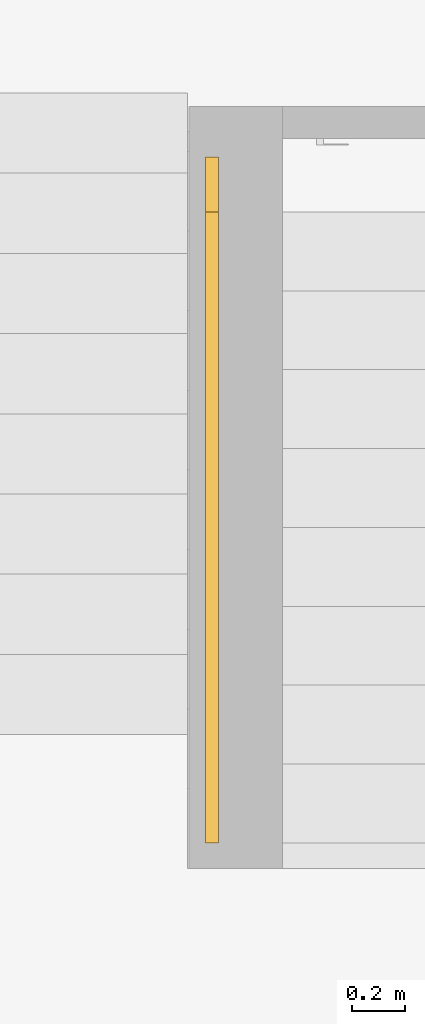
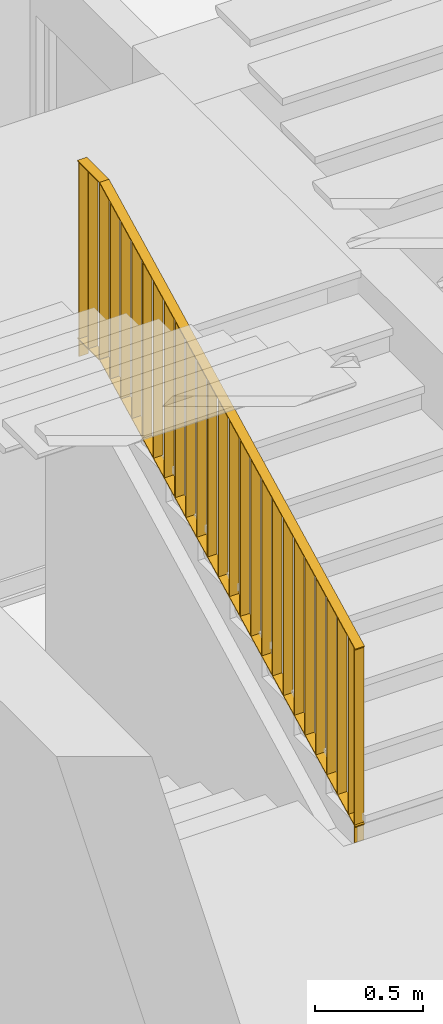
# One storey, part 18 of 23: 1 railing, 1 element without a shape of its own.
"""IFC2X3 building model written with IfcOpenShell, lengths in millimetres."""

import ifcopenshell
import ifcopenshell.guid

model = None  # the IFC model being written
_history = None  # IfcOwnerHistory: only IFC2X3 demands one
_inside = {}  # id of a spatial element -> (the spatial element, [elements in it])
_under = {}  # id of a project, library or spatial element -> (it, [spatial elements below it])
_declared = {}  # id of a project -> (the project, [libraries it declares])
_typed = {}  # id of a type object -> (the type object, [elements of that type])
_made_of = {}  # id of a material, layer set ... -> (it, [elements and type objects made of it])


def new_model(schema):
    """Start an empty IFC model of exactly this schema.

    Asked for "IFC4X3", IfcOpenShell would pick the latest addendum, in which some entities
    have other attributes; the version numbers below select the first issue.
    IFC2X3 requires an IfcOwnerHistory on every rooted entity: one is made here for all.
    """
    global model, _history
    if schema == "IFC4X3":
        model = ifcopenshell.file(schema_version=(4, 3, 0, 0))
    else:
        model = ifcopenshell.file(schema=schema)
    _inside.clear()
    _under.clear()
    _declared.clear()
    _typed.clear()
    _made_of.clear()
    _history = None
    if model.schema == "IFC2X3":
        org = make("IfcOrganization", Name="unknown")
        user = make(
            "IfcPersonAndOrganization",
            ThePerson=make("IfcPerson", FamilyName="unknown"),
            TheOrganization=org,
        )
        app = make(
            "IfcApplication",
            ApplicationDeveloper=org,
            Version="unknown",
            ApplicationFullName="unknown",
            ApplicationIdentifier="unknown",
        )
        _history = make(
            "IfcOwnerHistory",
            OwningUser=user,
            OwningApplication=app,
            ChangeAction="ADDED",
            CreationDate=0,
        )
    return model


def make(cls, **values):
    """One entity of the class cls with the attributes given. An attribute that is None is left unset."""
    return model.create_entity(
        cls, **{name: value for name, value in values.items() if value is not None}
    )


def entity(cls, *values):
    """Any entity or typed value of the class cls, its attributes in the order of the schema. None: left unset."""
    e = model.create_entity(cls)
    for i, value in enumerate(values):
        if value is not None:
            e[i] = value
    return e


def rooted(cls, **values):
    """An entity with a GlobalId (a new one), such as an element, a storey or a relation."""
    return make(cls, GlobalId=ifcopenshell.guid.new(), OwnerHistory=_history, **values)


def si_unit(unit_type, name, prefix=None):
    """IfcSIUnit, for example si_unit("LENGTHUNIT", "METRE", prefix="MILLI")."""
    return make("IfcSIUnit", UnitType=unit_type, Prefix=prefix, Name=name)


def converted_unit(unit_type, name, factor, base, dimensions=None, offset=None):
    """IfcConversionBasedUnit, such as the inch: factor (a typed value) times the base unit."""
    return make(
        "IfcConversionBasedUnit"
        if offset is None
        else "IfcConversionBasedUnitWithOffset",
        ConversionOffset=offset,
        Dimensions=None
        if dimensions is None
        else entity("IfcDimensionalExponents", *dimensions),
        UnitType=unit_type,
        Name=name,
        ConversionFactor=make(
            "IfcMeasureWithUnit", ValueComponent=factor, UnitComponent=base
        ),
    )


def derived_unit(unit_type, elements):
    """IfcDerivedUnit: a product of units, each with its exponent."""
    return make(
        "IfcDerivedUnit",
        Elements=[
            make("IfcDerivedUnitElement", Unit=unit, Exponent=power)
            for unit, power in elements
        ],
        UnitType=unit_type,
    )


def assignment(units):
    """IfcUnitAssignment: the units of a project."""
    return None if units is None else make("IfcUnitAssignment", Units=units)


def point(xyz):
    """IfcCartesianPoint."""
    return None if xyz is None else make("IfcCartesianPoint", Coordinates=xyz)


def direction(xyz):
    """IfcDirection."""
    return None if xyz is None else make("IfcDirection", DirectionRatios=xyz)


def frame(location, z_axis=None, x_axis=None):
    """IfcAxis2Placement3D, a coordinate frame: its origin and axes. An axis left out is left unset."""
    return make(
        "IfcAxis2Placement3D",
        Location=point(location),
        Axis=direction(z_axis),
        RefDirection=direction(x_axis),
    )


def origin():
    """The frame at (0, 0, 0) with its axes left unset."""
    return frame((0.0, 0.0, 0.0))


def place(relative_to, where):
    """IfcLocalPlacement: puts the frame where relative to a parent placement (None: the world)."""
    return make(
        "IfcLocalPlacement", PlacementRelTo=relative_to, RelativePlacement=where
    )


def context(
    kind, dimensions, precision=None, world=None, true_north=None, identifier=None
):
    """IfcGeometricRepresentationContext, for example the 3D "Model" context."""
    return make(
        "IfcGeometricRepresentationContext",
        ContextIdentifier=identifier,
        ContextType=kind,
        CoordinateSpaceDimension=dimensions,
        Precision=precision,
        WorldCoordinateSystem=world,
        TrueNorth=true_north,
    )


def subcontext(parent, identifier, kind, view, scale=None):
    """IfcGeometricRepresentationSubContext, for example "Body" below "Model"."""
    return make(
        "IfcGeometricRepresentationSubContext",
        ContextIdentifier=identifier,
        ContextType=kind,
        ParentContext=parent,
        TargetScale=scale,
        TargetView=view,
    )


def project(units=None, contexts=None):
    """IfcProject with its units and contexts."""
    return rooted(
        "IfcProject",
        Name="project",
        RepresentationContexts=contexts,
        UnitsInContext=assignment(units),
    )


def spatial(cls, under=None, at=None, **own):
    """A site, building, storey or space (cls), placed at a placement, below another one or the project."""
    s = rooted(cls, ObjectPlacement=at, **own)
    if under is not None:
        _under.setdefault(under.id(), (under, []))[1].append(s)
    return s


def faces_of(points, faces, orient=None, outer=None):
    """IfcFace entities. A face is a list of loops; a loop is a list of indices into points, from 0.

    orient and outer hold one flag for each loop. By default every Orientation is true, the
    first loop of a face is its IfcFaceOuterBound and the others are IfcFaceBound.
    """
    made = []
    for i, loops in enumerate(faces):
        bounds = []
        for j, loop in enumerate(loops):
            is_outer = j == 0 if outer is None else outer[i][j]
            bounds.append(
                make(
                    "IfcFaceOuterBound" if is_outer else "IfcFaceBound",
                    Bound=make("IfcPolyLoop", Polygon=[points[k] for k in loop]),
                    Orientation=True if orient is None else orient[i][j],
                )
            )
        made.append(make("IfcFace", Bounds=bounds))
    return made


def faceted_brep(points, faces, orient=None, outer=None, voids=None):
    """IfcFacetedBrep: a solid bounded by flat faces; with voids (closed shells), ...WithVoids."""
    shared = [point(p) for p in points]
    hull = make("IfcClosedShell", CfsFaces=faces_of(shared, faces, orient, outer))
    if voids is None:
        return make("IfcFacetedBrep", Outer=hull)
    return make(
        "IfcFacetedBrepWithVoids",
        Outer=hull,
        Voids=[
            make(cls, CfsFaces=faces_of(shared, fs, o, b)) for cls, fs, o, b in voids
        ],
    )


def shape(context_of_items, identifier, shape_type, items):
    """IfcShapeRepresentation: the items that make up one representation, for example the "Body"."""
    return make(
        "IfcShapeRepresentation",
        ContextOfItems=context_of_items,
        RepresentationIdentifier=identifier,
        RepresentationType=shape_type,
        Items=items,
    )


def material(Name=None, Category=None):
    """IfcMaterial."""
    return make("IfcMaterial", Name=Name, Category=Category)


def made_of(thing, what):
    """Note that an element or type object is made of a material, layer set ...; save() writes the relation."""
    if what is not None:
        _made_of.setdefault(what.id(), (what, []))[1].append(thing)
    return thing


def element(
    cls,
    number,
    at=None,
    inside=None,
    cuts=None,
    type_object=None,
    material=None,
    context=None,
    identifier="Body",
    shape_type=None,
    held_by="IfcProductDefinitionShape",
    body=None,
    shapes=None,
    **own,
):
    """One element of the class cls, such as IfcWall. Its Tag is "e" and its number.

    at: its placement. inside: the storey or other place that contains it. cuts: it is an
    opening in that element (IfcRelVoidsElement). A single representation is given by context,
    identifier, shape_type and body (its items); several are given by shapes. held_by: the class
    of the entity that holds the representations. save() writes the other relations.
    """
    e = rooted(cls, Tag="e%d" % number, ObjectPlacement=at, **own)
    if body is not None:
        shapes = [shape(context, identifier, shape_type, body)]
    if shapes is not None:
        e.Representation = make(held_by, Representations=shapes)
    if inside is not None:
        _inside.setdefault(inside.id(), (inside, []))[1].append(e)
    if cuts is not None:
        rooted(
            "IfcRelVoidsElement", RelatingBuildingElement=cuts, RelatedOpeningElement=e
        )
    if type_object is not None:
        _typed.setdefault(type_object.id(), (type_object, []))[1].append(e)
    return made_of(e, material)


def aggregate(whole, parts):
    """IfcRelAggregates: a whole, such as a stair, and the parts it consists of."""
    return rooted("IfcRelAggregates", RelatingObject=whole, RelatedObjects=parts)


def save(model, path):
    """Write the relations noted so far, then the file.

    IfcRelAggregates (storeys below a building ...), IfcRelContainedInSpatialStructure (elements
    in a storey), IfcRelDefinesByType, IfcRelAssociatesMaterial and IfcRelDeclares: one each for
    every whole, place, type object, material and project.
    """
    for whole, parts in _under.values():
        aggregate(whole, parts)
    for where, things in _inside.values():
        rooted(
            "IfcRelContainedInSpatialStructure",
            RelatedElements=things,
            RelatingStructure=where,
        )
    for kind, things in _typed.values():
        rooted("IfcRelDefinesByType", RelatedObjects=things, RelatingType=kind)
    for what, things in _made_of.values():
        rooted("IfcRelAssociatesMaterial", RelatedObjects=things, RelatingMaterial=what)
    for by, libraries in _declared.values():
        rooted("IfcRelDeclares", RelatingContext=by, RelatedDefinitions=libraries)
    model.write(path)


model = new_model("IFC2X3")

# Units and contexts
model_context = context("Model", 3, precision=0.01, world=origin(), true_north=direction((6.12303176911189e-17, 1.0)))
body_context = subcontext(model_context, "Body", "Model", "MODEL_VIEW")
ifc_project = project(units=[si_unit("LENGTHUNIT", "METRE", prefix="MILLI"), si_unit("AREAUNIT", "SQUARE_METRE"), si_unit("VOLUMEUNIT", "CUBIC_METRE"), converted_unit("PLANEANGLEUNIT", "DEGREE", entity("IfcRatioMeasure", 0.0174532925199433), si_unit("PLANEANGLEUNIT", "RADIAN"), dimensions=[0, 0, 0, 0, 0, 0, 0]), si_unit("MASSUNIT", "GRAM", prefix="KILO"), derived_unit("MASSDENSITYUNIT", [(si_unit("MASSUNIT", "GRAM", prefix="KILO"), 1), (si_unit("LENGTHUNIT", "METRE"), -3)]), si_unit("TIMEUNIT", "SECOND"), si_unit("FREQUENCYUNIT", "HERTZ"), si_unit("THERMODYNAMICTEMPERATUREUNIT", "DEGREE_CELSIUS"), derived_unit("THERMALTRANSMITTANCEUNIT", [(si_unit("MASSUNIT", "GRAM", prefix="KILO"), 1), (si_unit("THERMODYNAMICTEMPERATUREUNIT", "KELVIN"), -1), (si_unit("TIMEUNIT", "SECOND"), -3)]), derived_unit("VOLUMETRICFLOWRATEUNIT", [(si_unit("LENGTHUNIT", "METRE"), 3), (si_unit("TIMEUNIT", "SECOND"), -1)]), si_unit("ELECTRICCURRENTUNIT", "AMPERE"), si_unit("ELECTRICVOLTAGEUNIT", "VOLT"), si_unit("POWERUNIT", "WATT"), si_unit("FORCEUNIT", "NEWTON", prefix="KILO"), si_unit("ILLUMINANCEUNIT", "LUX"), si_unit("LUMINOUSFLUXUNIT", "LUMEN"), si_unit("LUMINOUSINTENSITYUNIT", "CANDELA"), derived_unit("USERDEFINED", [(si_unit("MASSUNIT", "GRAM", prefix="KILO"), -1), (si_unit("LENGTHUNIT", "METRE"), -2), (si_unit("TIMEUNIT", "SECOND"), 3), (si_unit("LUMINOUSFLUXUNIT", "LUMEN"), 1)]), derived_unit("LINEARVELOCITYUNIT", [(si_unit("LENGTHUNIT", "METRE"), 1), (si_unit("TIMEUNIT", "SECOND"), -1)]), si_unit("PRESSUREUNIT", "PASCAL"), derived_unit("USERDEFINED", [(si_unit("LENGTHUNIT", "METRE"), -2), (si_unit("MASSUNIT", "GRAM", prefix="KILO"), 1), (si_unit("TIMEUNIT", "SECOND"), -2)]), derived_unit("LINEARFORCEUNIT", [(si_unit("MASSUNIT", "GRAM", prefix="KILO"), 1), (si_unit("LENGTHUNIT", "METRE"), 1), (si_unit("TIMEUNIT", "SECOND"), -2), (si_unit("LENGTHUNIT", "METRE"), -1)]), derived_unit("PLANARFORCEUNIT", [(si_unit("MASSUNIT", "GRAM", prefix="KILO"), 1), (si_unit("LENGTHUNIT", "METRE"), 1), (si_unit("TIMEUNIT", "SECOND"), -2), (si_unit("LENGTHUNIT", "METRE"), -2)])], contexts=[model_context])

# Site, building, storey
site_placement = place(None, origin())
site = spatial("IfcSite", under=ifc_project, at=site_placement, Name="Default", CompositionType="ELEMENT")
building_placement = place(site_placement, origin())
building = spatial("IfcBuilding", under=site, at=building_placement, Name="SMA ARH", CompositionType="ELEMENT")
storey_placement = place(building_placement, frame((0.0, 0.0, -2800.0)))
storey = spatial("IfcBuildingStorey", under=building, at=storey_placement, Name="0 Sokkel", CompositionType="ELEMENT", Elevation=-2800.0)

# Stair, railing
stair_placement = place(storey_placement, origin())
stair = element("IfcStair", 1, at=stair_placement, inside=storey, Name="Cast-In-Place Stair:Stair", ObjectType="Cast-In-Place Stair:Cast-In-Place Stair", ShapeType="STRAIGHT_RUN_STAIR")
ifc_material = material(Name="Metal - Stainless Steel,Polished")
railing_placement = place(stair_placement, frame((32241.0690564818, 2085.0, 1473.82297551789)))
railing = element("IfcRailing", 2, at=railing_placement, material=ifc_material, Name="Railing:1000mm_sisearh railing offsetiga", ObjectType="Railing:1000mm_sisearh railing offsetiga", PredefinedType="NOTDEFINED", context=body_context, shape_type="Brep", body=[
    faceted_brep([(50.4401690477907, 62.5000000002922, 127.966101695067), (50.4401690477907, 67.5000000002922, 130.489642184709), (50.4401690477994, 67.5000000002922, 1124.88890503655), (50.4401690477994, 62.5000000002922, 1122.36536454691), (0.440169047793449, 62.5000000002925, 127.966101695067), (0.440169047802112, 62.5000000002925, 1122.36536454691), (0.440169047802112, 67.5000000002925, 1124.88890503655), (0.440169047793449, 67.5000000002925, 130.489642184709)], [[[0, 1, 2, 3]], [[4, 5, 6, 7]], [[1, 0, 4, 7]], [[2, 1, 7, 6]], [[3, 2, 6, 5]], [[0, 3, 5, 4]]]),
    faceted_brep([(50.4401690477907, 162.500000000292, 178.813559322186), (50.4401690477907, 167.500000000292, 181.337099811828), (50.4401690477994, 167.500000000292, 1175.73636266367), (50.4401690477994, 162.500000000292, 1173.21282217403), (0.440169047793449, 162.500000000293, 178.813559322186), (0.440169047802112, 162.500000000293, 1173.21282217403), (0.440169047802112, 167.500000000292, 1175.73636266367), (0.440169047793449, 167.500000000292, 181.337099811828)], [[[0, 1, 2, 3]], [[4, 5, 6, 7]], [[1, 0, 4, 7]], [[2, 1, 7, 6]], [[3, 2, 6, 5]], [[0, 3, 5, 4]]]),
    faceted_brep([(50.4401690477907, 262.500000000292, 229.661016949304), (50.4401690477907, 267.500000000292, 232.184557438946), (50.4401690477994, 267.500000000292, 1226.58382029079), (50.4401690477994, 262.500000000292, 1224.06027980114), (0.440169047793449, 262.500000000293, 229.661016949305), (0.440169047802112, 262.500000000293, 1224.06027980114), (0.440169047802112, 267.500000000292, 1226.58382029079), (0.440169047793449, 267.500000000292, 232.184557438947)], [[[0, 1, 2, 3]], [[4, 5, 6, 7]], [[1, 0, 4, 7]], [[2, 1, 7, 6]], [[3, 2, 6, 5]], [[0, 3, 5, 4]]]),
    faceted_brep([(50.4401690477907, 362.500000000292, 280.508474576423), (50.4401690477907, 367.500000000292, 283.032015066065), (50.4401690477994, 367.500000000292, 1277.43127791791), (50.4401690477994, 362.500000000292, 1274.90773742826), (0.440169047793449, 362.500000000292, 280.508474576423), (0.440169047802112, 362.500000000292, 1274.90773742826), (0.440169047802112, 367.500000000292, 1277.43127791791), (0.440169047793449, 367.500000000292, 283.032015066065)], [[[0, 1, 2, 3]], [[4, 5, 6, 7]], [[1, 0, 4, 7]], [[2, 1, 7, 6]], [[3, 2, 6, 5]], [[0, 3, 5, 4]]]),
    faceted_brep([(50.4401690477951, 462.500000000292, 331.355932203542), (50.4401690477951, 467.500000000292, 333.879472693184), (50.4401690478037, 467.500000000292, 1328.27873554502), (50.4401690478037, 462.500000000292, 1325.75519505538), (0.440169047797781, 462.500000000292, 331.355932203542), (0.440169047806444, 462.500000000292, 1325.75519505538), (0.440169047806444, 467.500000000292, 1328.27873554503), (0.440169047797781, 467.500000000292, 333.879472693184)], [[[0, 1, 2, 3]], [[4, 5, 6, 7]], [[1, 0, 4, 7]], [[2, 1, 7, 6]], [[3, 2, 6, 5]], [[0, 3, 5, 4]]]),
    faceted_brep([(50.4401690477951, 562.500000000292, 382.20338983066), (50.4401690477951, 567.500000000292, 384.726930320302), (50.4401690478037, 567.500000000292, 1379.12619317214), (50.4401690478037, 562.500000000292, 1376.6026526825), (0.440169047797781, 562.500000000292, 382.203389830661), (0.440169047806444, 562.500000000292, 1376.6026526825), (0.440169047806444, 567.500000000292, 1379.12619317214), (0.440169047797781, 567.500000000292, 384.726930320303)], [[[0, 1, 2, 3]], [[4, 5, 6, 7]], [[1, 0, 4, 7]], [[2, 1, 7, 6]], [[3, 2, 6, 5]], [[0, 3, 5, 4]]]),
    faceted_brep([(50.4401690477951, 662.500000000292, 433.050847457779), (50.4401690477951, 667.500000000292, 435.574387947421), (50.4401690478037, 667.500000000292, 1429.97365079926), (50.4401690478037, 662.500000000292, 1427.45011030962), (0.440169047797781, 662.500000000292, 433.050847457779), (0.440169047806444, 662.500000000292, 1427.45011030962), (0.440169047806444, 667.500000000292, 1429.97365079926), (0.440169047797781, 667.500000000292, 435.574387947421)], [[[0, 1, 2, 3]], [[4, 5, 6, 7]], [[1, 0, 4, 7]], [[2, 1, 7, 6]], [[3, 2, 6, 5]], [[0, 3, 5, 4]]]),
    faceted_brep([(50.4401690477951, 762.500000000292, 483.898305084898), (50.4401690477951, 767.500000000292, 486.42184557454), (50.4401690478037, 767.500000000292, 1480.82110842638), (50.4401690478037, 762.500000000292, 1478.29756793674), (0.440169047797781, 762.500000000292, 483.898305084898), (0.440169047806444, 762.500000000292, 1478.29756793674), (0.440169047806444, 767.500000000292, 1480.82110842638), (0.440169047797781, 767.500000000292, 486.42184557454)], [[[0, 1, 2, 3]], [[4, 5, 6, 7]], [[1, 0, 4, 7]], [[2, 1, 7, 6]], [[3, 2, 6, 5]], [[0, 3, 5, 4]]]),
    faceted_brep([(50.4401690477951, 862.500000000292, 534.745762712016), (50.4401690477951, 867.500000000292, 537.269303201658), (50.4401690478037, 867.500000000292, 1531.6685660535), (50.4401690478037, 862.500000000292, 1529.14502556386), (0.440169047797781, 862.500000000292, 534.745762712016), (0.440169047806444, 862.500000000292, 1529.14502556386), (0.440169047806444, 867.500000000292, 1531.6685660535), (0.440169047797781, 867.500000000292, 537.269303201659)], [[[0, 1, 2, 3]], [[4, 5, 6, 7]], [[1, 0, 4, 7]], [[2, 1, 7, 6]], [[3, 2, 6, 5]], [[0, 3, 5, 4]]]),
    faceted_brep([(50.4401690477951, 962.500000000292, 585.593220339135), (50.4401690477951, 967.500000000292, 588.116760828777), (50.4401690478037, 967.500000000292, 1582.51602368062), (50.4401690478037, 962.500000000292, 1579.99248319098), (0.440169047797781, 962.500000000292, 585.593220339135), (0.440169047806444, 962.500000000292, 1579.99248319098), (0.440169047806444, 967.500000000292, 1582.51602368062), (0.440169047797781, 967.500000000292, 588.116760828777)], [[[0, 1, 2, 3]], [[4, 5, 6, 7]], [[1, 0, 4, 7]], [[2, 1, 7, 6]], [[3, 2, 6, 5]], [[0, 3, 5, 4]]]),
    faceted_brep([(50.4401690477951, 1062.50000000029, 636.440677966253), (50.4401690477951, 1067.50000000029, 638.964218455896), (50.4401690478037, 1067.50000000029, 1633.36348130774), (50.4401690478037, 1062.50000000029, 1630.83994081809), (0.440169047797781, 1062.50000000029, 636.440677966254), (0.440169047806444, 1062.50000000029, 1630.83994081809), (0.440169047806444, 1067.50000000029, 1633.36348130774), (0.440169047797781, 1067.50000000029, 638.964218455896)], [[[0, 1, 2, 3]], [[4, 5, 6, 7]], [[1, 0, 4, 7]], [[2, 1, 7, 6]], [[3, 2, 6, 5]], [[0, 3, 5, 4]]]),
    faceted_brep([(50.4401690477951, 1162.50000000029, 687.288135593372), (50.4401690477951, 1167.50000000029, 689.811676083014), (50.4401690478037, 1167.50000000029, 1684.21093893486), (50.4401690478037, 1162.50000000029, 1681.68739844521), (0.440169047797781, 1162.50000000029, 687.288135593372), (0.440169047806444, 1162.50000000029, 1681.68739844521), (0.440169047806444, 1167.50000000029, 1684.21093893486), (0.440169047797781, 1167.50000000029, 689.811676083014)], [[[0, 1, 2, 3]], [[4, 5, 6, 7]], [[1, 0, 4, 7]], [[2, 1, 7, 6]], [[3, 2, 6, 5]], [[0, 3, 5, 4]]]),
    faceted_brep([(50.4401690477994, 1262.50000000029, 738.135593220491), (50.4401690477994, 1267.50000000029, 740.659133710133), (50.4401690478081, 1267.50000000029, 1735.05839656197), (50.4401690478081, 1262.50000000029, 1732.53485607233), (0.440169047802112, 1262.50000000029, 738.135593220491), (0.440169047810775, 1262.50000000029, 1732.53485607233), (0.440169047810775, 1267.50000000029, 1735.05839656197), (0.440169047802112, 1267.50000000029, 740.659133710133)], [[[0, 1, 2, 3]], [[4, 5, 6, 7]], [[1, 0, 4, 7]], [[2, 1, 7, 6]], [[3, 2, 6, 5]], [[0, 3, 5, 4]]]),
    faceted_brep([(50.4401690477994, 1362.50000000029, 788.983050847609), (50.4401690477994, 1367.50000000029, 791.506591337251), (50.4401690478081, 1367.50000000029, 1785.90585418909), (50.4401690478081, 1362.50000000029, 1783.38231369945), (0.440169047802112, 1362.50000000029, 788.983050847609), (0.440169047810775, 1362.50000000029, 1783.38231369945), (0.440169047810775, 1367.50000000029, 1785.90585418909), (0.440169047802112, 1367.50000000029, 791.506591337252)], [[[0, 1, 2, 3]], [[4, 5, 6, 7]], [[1, 0, 4, 7]], [[2, 1, 7, 6]], [[3, 2, 6, 5]], [[0, 3, 5, 4]]]),
    faceted_brep([(50.4401690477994, 1462.50000000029, 839.830508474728), (50.4401690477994, 1467.50000000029, 842.35404896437), (50.4401690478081, 1467.50000000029, 1836.75331181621), (50.4401690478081, 1462.50000000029, 1834.22977132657), (0.440169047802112, 1462.50000000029, 839.830508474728), (0.440169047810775, 1462.50000000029, 1834.22977132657), (0.440169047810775, 1467.50000000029, 1836.75331181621), (0.440169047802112, 1467.50000000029, 842.35404896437)], [[[0, 1, 2, 3]], [[4, 5, 6, 7]], [[1, 0, 4, 7]], [[2, 1, 7, 6]], [[3, 2, 6, 5]], [[0, 3, 5, 4]]]),
    faceted_brep([(50.4401690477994, 1562.50000000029, 890.677966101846), (50.4401690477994, 1567.50000000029, 893.201506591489), (50.4401690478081, 1567.50000000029, 1887.60076944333), (50.4401690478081, 1562.50000000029, 1885.07722895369), (0.440169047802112, 1562.50000000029, 890.677966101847), (0.440169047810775, 1562.50000000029, 1885.07722895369), (0.440169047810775, 1567.50000000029, 1887.60076944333), (0.440169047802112, 1567.50000000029, 893.201506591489)], [[[0, 1, 2, 3]], [[4, 5, 6, 7]], [[1, 0, 4, 7]], [[2, 1, 7, 6]], [[3, 2, 6, 5]], [[0, 3, 5, 4]]]),
    faceted_brep([(50.4401690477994, 1662.50000000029, 941.525423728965), (50.4401690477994, 1667.50000000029, 944.048964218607), (50.4401690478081, 1667.50000000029, 1938.44822707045), (50.4401690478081, 1662.50000000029, 1935.92468658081), (0.440169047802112, 1662.50000000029, 941.525423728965), (0.440169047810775, 1662.50000000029, 1935.92468658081), (0.440169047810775, 1667.50000000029, 1938.44822707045), (0.440169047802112, 1667.50000000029, 944.048964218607)], [[[0, 1, 2, 3]], [[4, 5, 6, 7]], [[1, 0, 4, 7]], [[2, 1, 7, 6]], [[3, 2, 6, 5]], [[0, 3, 5, 4]]]),
    faceted_brep([(50.4401690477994, 1762.50000000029, 992.372881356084), (50.4401690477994, 1767.50000000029, 994.896421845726), (50.4401690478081, 1767.50000000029, 1989.29568469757), (50.4401690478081, 1762.50000000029, 1986.77214420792), (0.440169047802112, 1762.50000000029, 992.372881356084), (0.440169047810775, 1762.50000000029, 1986.77214420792), (0.440169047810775, 1767.50000000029, 1989.29568469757), (0.440169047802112, 1767.50000000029, 994.896421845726)], [[[0, 1, 2, 3]], [[4, 5, 6, 7]], [[1, 0, 4, 7]], [[2, 1, 7, 6]], [[3, 2, 6, 5]], [[0, 3, 5, 4]]]),
    faceted_brep([(50.4401690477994, 1862.50000000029, 1043.2203389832), (50.4401690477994, 1867.50000000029, 1045.74387947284), (50.4401690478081, 1867.50000000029, 2040.14314232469), (50.4401690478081, 1862.50000000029, 2037.61960183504), (0.440169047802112, 1862.50000000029, 1043.2203389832), (0.440169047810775, 1862.50000000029, 2037.61960183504), (0.440169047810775, 1867.50000000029, 2040.14314232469), (0.440169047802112, 1867.50000000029, 1045.74387947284)], [[[0, 1, 2, 3]], [[4, 5, 6, 7]], [[1, 0, 4, 7]], [[2, 1, 7, 6]], [[3, 2, 6, 5]], [[0, 3, 5, 4]]]),
    faceted_brep([(50.4401690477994, 1962.50000000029, 1094.06779661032), (50.4401690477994, 1967.50000000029, 1096.59133709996), (50.4401690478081, 1967.50000000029, 2090.9905999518), (50.4401690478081, 1962.50000000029, 2088.46705946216), (0.440169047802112, 1962.50000000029, 1094.06779661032), (0.440169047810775, 1962.50000000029, 2088.46705946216), (0.440169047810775, 1967.50000000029, 2090.9905999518), (0.440169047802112, 1967.50000000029, 1096.59133709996)], [[[0, 1, 2, 3]], [[4, 5, 6, 7]], [[1, 0, 4, 7]], [[2, 1, 7, 6]], [[3, 2, 6, 5]], [[0, 3, 5, 4]]]),
    faceted_brep([(50.4401690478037, 2062.50000000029, 1144.91525423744), (50.4401690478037, 2067.50000000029, 1147.43879472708), (50.4401690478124, 2067.50000000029, 2141.83805757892), (50.4401690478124, 2062.50000000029, 2139.31451708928), (0.440169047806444, 2062.50000000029, 1144.91525423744), (0.440169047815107, 2062.50000000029, 2139.31451708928), (0.440169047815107, 2067.50000000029, 2141.83805757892), (0.440169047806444, 2067.50000000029, 1147.43879472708)], [[[0, 1, 2, 3]], [[4, 5, 6, 7]], [[1, 0, 4, 7]], [[2, 1, 7, 6]], [[3, 2, 6, 5]], [[0, 3, 5, 4]]]),
    faceted_brep([(50.4401690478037, 2162.50000000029, 1195.76271186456), (50.4401690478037, 2167.50000000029, 1198.2862523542), (50.4401690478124, 2167.50000000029, 2192.68551520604), (50.4401690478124, 2162.50000000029, 2190.1619747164), (0.440169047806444, 2162.50000000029, 1195.76271186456), (0.440169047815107, 2162.50000000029, 2190.1619747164), (0.440169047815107, 2167.50000000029, 2192.68551520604), (0.440169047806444, 2167.50000000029, 1198.2862523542)], [[[0, 1, 2, 3]], [[4, 5, 6, 7]], [[1, 0, 4, 7]], [[2, 1, 7, 6]], [[3, 2, 6, 5]], [[0, 3, 5, 4]]]),
    faceted_brep([(50.4401690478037, 2262.50000000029, 1246.61016949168), (50.4401690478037, 2267.50000000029, 1249.13370998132), (50.4401690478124, 2267.50000000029, 2243.53297283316), (50.4401690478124, 2262.50000000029, 2241.00943234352), (0.440169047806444, 2262.50000000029, 1246.61016949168), (0.440169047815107, 2262.50000000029, 2241.00943234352), (0.440169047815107, 2267.50000000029, 2243.53297283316), (0.440169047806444, 2267.50000000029, 1249.13370998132)], [[[0, 1, 2, 3]], [[4, 5, 6, 7]], [[1, 0, 4, 7]], [[2, 1, 7, 6]], [[3, 2, 6, 5]], [[0, 3, 5, 4]]]),
    faceted_brep([(50.4401690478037, 2362.50000000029, 1296.17702448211), (50.4401690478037, 2367.50000000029, 1296.17702448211), (50.4401690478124, 2367.50000000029, 2291.17702448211), (50.4401690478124, 2362.50000000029, 2291.17702448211), (0.440169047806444, 2362.50000000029, 1296.17702448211), (0.440169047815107, 2362.50000000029, 2291.17702448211), (0.440169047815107, 2367.50000000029, 2291.17702448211), (0.440169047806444, 2367.50000000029, 1296.17702448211)], [[[0, 1, 2, 3]], [[4, 5, 6, 7]], [[1, 0, 4, 7]], [[2, 1, 7, 6]], [[3, 2, 6, 5]], [[0, 3, 5, 4]]]),
    faceted_brep([(50.4401690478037, 2462.50000000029, 1296.17702448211), (50.4401690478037, 2467.50000000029, 1296.17702448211), (50.4401690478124, 2467.50000000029, 2291.17702448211), (50.4401690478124, 2462.50000000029, 2291.17702448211), (0.440169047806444, 2462.50000000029, 1296.17702448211), (0.440169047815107, 2462.50000000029, 2291.17702448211), (0.440169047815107, 2467.50000000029, 2291.17702448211), (0.440169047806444, 2467.50000000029, 1296.17702448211)], [[[0, 1, 2, 3]], [[4, 5, 6, 7]], [[1, 0, 4, 7]], [[2, 1, 7, 6]], [[3, 2, 6, 5]], [[0, 3, 5, 4]]]),
    faceted_brep([(50.4401690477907, 7.49999999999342, 0.0), (50.4401690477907, 12.4999999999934, 2.52354048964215), (50.4401690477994, 12.4999999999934, 1096.92280334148), (50.4401690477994, 7.49999999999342, 1094.39926285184), (0.440169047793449, 7.49999999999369, 0.0), (0.440169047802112, 7.49999999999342, 1094.39926285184), (0.440169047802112, 12.4999999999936, 1096.92280334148), (0.440169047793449, 12.4999999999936, 2.52354048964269)], [[[0, 1, 2, 3]], [[4, 5, 6, 7]], [[1, 0, 4, 7]], [[2, 1, 7, 6]], [[3, 2, 6, 5]], [[0, 3, 5, 4]]]),
    faceted_brep([(50.4401690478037, 2552.50000000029, 1196.17702448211), (50.4401690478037, 2557.50000000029, 1196.17702448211), (50.4401690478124, 2557.50000000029, 2291.17702448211), (50.4401690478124, 2552.50000000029, 2291.17702448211), (0.440169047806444, 2552.50000000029, 1196.17702448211), (0.440169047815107, 2552.50000000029, 2291.17702448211), (0.440169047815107, 2557.50000000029, 2291.17702448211), (0.440169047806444, 2557.50000000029, 1196.17702448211)], [[[0, 1, 2, 3]], [[4, 5, 6, 7]], [[1, 0, 4, 7]], [[2, 1, 7, 6]], [[3, 2, 6, 5]], [[0, 3, 5, 4]]]),
    faceted_brep([(50.0, 2565.0, 1296.17702448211), (50.0, 2565.0, 1291.17702448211), (0.0, 2565.0, 1291.17702448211), (0.0, 2565.0, 1296.17702448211), (50.0, 0.0, 96.1770244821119), (0.0, 0.0, 96.1770244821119), (0.0, 0.0, 90.5677767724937), (50.0, 0.0, 90.567776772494), (50.0, 2360.0, 1296.17702448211), (50.0, 2361.19818716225, 1291.17702448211), (0.0, 2361.19818716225, 1291.17702448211), (0.0, 2360.0, 1296.17702448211)], [[[0, 1, 2, 3]], [[4, 5, 6, 7]], [[1, 0, 8, 9]], [[2, 1, 9, 10]], [[3, 2, 10, 11]], [[0, 3, 11, 8]], [[9, 8, 4, 7]], [[10, 9, 7, 6]], [[11, 10, 6, 5]], [[8, 11, 5, 4]]]),
    faceted_brep([(50.0, 0.0, 1096.17702448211), (0.0, 0.0, 1096.17702448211), (0.0, 0.0, 1090.56777677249), (50.0, 0.0, 1090.56777677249), (50.0, 2360.0, 2296.17702448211), (0.0, 2360.0, 2296.17702448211), (0.0, 2361.19818716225, 2291.17702448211), (50.0, 2361.19818716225, 2291.17702448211), (50.0, 2565.0, 2296.17702448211), (50.0, 2565.0, 2291.17702448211), (0.0, 2565.0, 2291.17702448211), (0.0, 2565.0, 2296.17702448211)], [[[0, 1, 2, 3]], [[1, 0, 4, 5]], [[2, 1, 5, 6]], [[3, 2, 6, 7]], [[0, 3, 7, 4]], [[8, 9, 10, 11]], [[5, 4, 8, 11]], [[6, 5, 11, 10]], [[7, 6, 10, 9]], [[4, 7, 9, 8]]]),
])
aggregate(stair, [railing])

save(model, "model.ifc")
